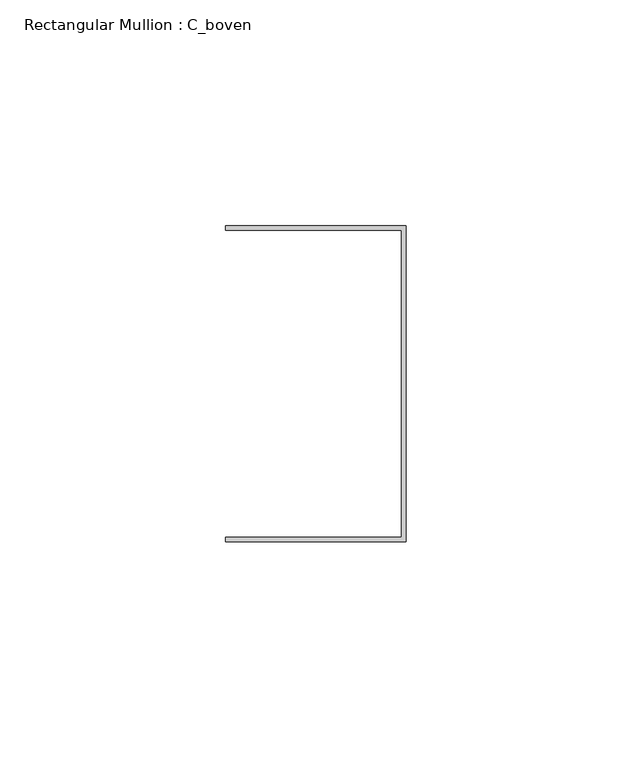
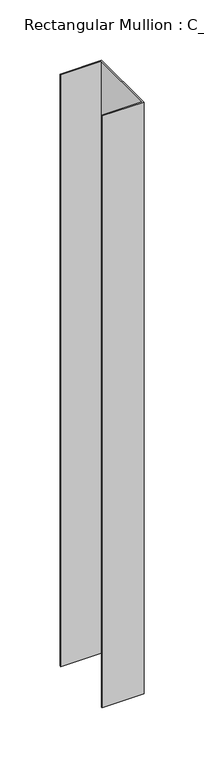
"""IFC4 building model written with IfcOpenShell, lengths in millimetres: member geometry, Rectangular Mullion : C_boven."""

from ifc_helpers import new_model, si_unit, frame, origin, place, context, project, spatial, polyline, outline, extrude, source, transform, mapped, element, save


def rectangular_mullion_c_boven_823d8da8(model_context):
    return source(origin(), model_context, "Body", "SweptSolid", [
        extrude(outline(polyline([(-1.0, 34.0), (-40.0, 34.0), (-40.0, 35.0), (0.0, 35.0), (0.0, -35.0), (-40.0, -35.0), (-40.0, -34.0), (-1.0, -34.0), (-1.0, 34.0)])), frame((0.0, 0.0, -600.0), z_axis=(0.0, 0.0, 1.0), x_axis=(1.0, 0.0, 0.0)), (0.0, 0.0, 1.0), 600.0),
    ])


if __name__ == "__main__":
    model = new_model("IFC4")
    model_context = context("Model", 3, world=origin())
    ifc_project = project(units=[si_unit("LENGTHUNIT", "METRE", prefix="MILLI")], contexts=[model_context])
    site = spatial("IfcSite", under=ifc_project)
    building = spatial("IfcBuilding", under=site)
    placement = place(None, origin())
    rectangular_mullion_c_boven_shape = rectangular_mullion_c_boven_823d8da8(model_context)
    element("IfcMember", 1, ObjectType="Rectangular Mullion : C_boven", at=placement, inside=building, context=model_context, shape_type="MappedRepresentation", body=[
        mapped(rectangular_mullion_c_boven_shape, transform((0.0, 0.0, 0.0), x_axis=(1.0, 0.0, 0.0), y_axis=(0.0, 1.0, 0.0), z_axis=(0.0, 0.0, 1.0))),
    ])
    save(model, "model.ifc")
